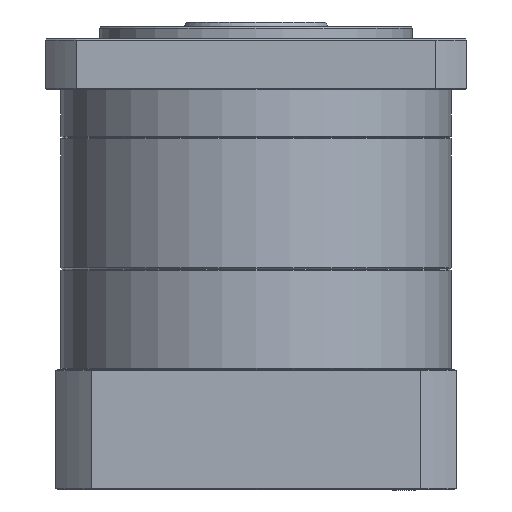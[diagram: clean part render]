
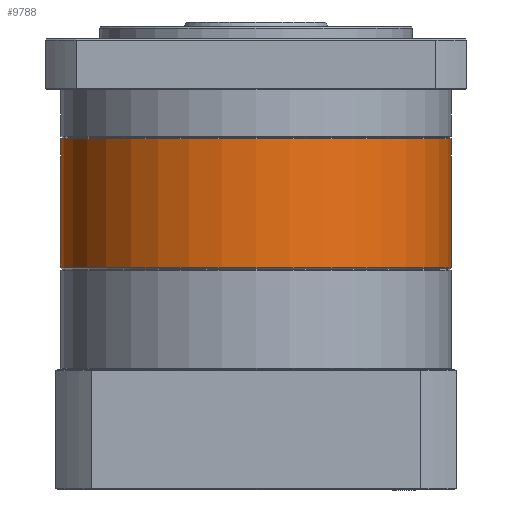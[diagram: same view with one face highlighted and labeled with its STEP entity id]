
A CAD part, front view. The second image highlights one B-rep face of the part: STEP entity #9788.
In plain terms, the highlighted cylindrical face has radius 81 mm (diameter 162 mm), a partial arc.
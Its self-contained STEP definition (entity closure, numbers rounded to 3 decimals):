
#1926 = DIRECTION ( 'NONE',  ( 0., 1., 0. ) ) ;
#2231 = DIRECTION ( 'NONE',  ( 1., 0., 0. ) ) ;
#4569 = CARTESIAN_POINT ( 'NONE',  ( 255.125, 67.755, 82.063 ) ) ;
#5974 = DIRECTION ( 'NONE',  ( 0., 0., 1. ) ) ;
#9788 = ADVANCED_FACE ( 'NONE', ( #84854 ), #21851, .T. ) ;
#11447 = CIRCLE ( 'NONE', #29010, 81. ) ;
#12903 = VERTEX_POINT ( 'NONE', #33733 ) ;
#18274 = CARTESIAN_POINT ( 'NONE',  ( 93.125, 67.755, 82.063 ) ) ;
#19287 = VERTEX_POINT ( 'NONE', #70411 ) ;
#20097 = DIRECTION ( 'NONE',  ( 0., 0., 1. ) ) ;
#21084 = EDGE_CURVE ( 'NONE', #24731, #58611, #88264, .T. ) ;
#21851 = CYLINDRICAL_SURFACE ( 'NONE', #45101, 81. ) ;
#21903 = AXIS2_PLACEMENT_3D ( 'NONE', #88655, #88047, #1926 ) ;
#24731 = VERTEX_POINT ( 'NONE', #4569 ) ;
#27886 = VECTOR ( 'NONE', #20097, 1000. ) ;
#28400 = ORIENTED_EDGE ( 'NONE', *, *, #21084, .T. ) ;
#28546 = DIRECTION ( 'NONE',  ( 1., 0., 0. ) ) ;
#29010 = AXIS2_PLACEMENT_3D ( 'NONE', #65622, #72488, #44572 ) ;
#29502 = CARTESIAN_POINT ( 'NONE',  ( 174.125, 67.755, 28.063 ) ) ;
#32221 = VECTOR ( 'NONE', #5974, 1000. ) ;
#33733 = CARTESIAN_POINT ( 'NONE',  ( 255.125, 67.755, 28.563 ) ) ;
#34724 = LINE ( 'NONE', #70970, #27886 ) ;
#35498 = ORIENTED_EDGE ( 'NONE', *, *, #63069, .F. ) ;
#38954 = AXIS2_PLACEMENT_3D ( 'NONE', #74503, #45339, #2231 ) ;
#41392 = EDGE_LOOP ( 'NONE', ( #77306, #35498, #87603, #68291, #28400 ) ) ;
#42847 = CARTESIAN_POINT ( 'NONE',  ( 93.125, 67.755, 28.563 ) ) ;
#42987 = EDGE_CURVE ( 'NONE', #47672, #58611, #34724, .T. ) ;
#44572 = DIRECTION ( 'NONE',  ( 0., 1., 0. ) ) ;
#45101 = AXIS2_PLACEMENT_3D ( 'NONE', #29502, #57780, #28546 ) ;
#45339 = DIRECTION ( 'NONE',  ( 0., 0., -1. ) ) ;
#46290 = EDGE_CURVE ( 'NONE', #12903, #19287, #11447, .T. ) ;
#47672 = VERTEX_POINT ( 'NONE', #42847 ) ;
#49293 = EDGE_CURVE ( 'NONE', #12903, #24731, #59116, .T. ) ;
#57780 = DIRECTION ( 'NONE',  ( 0., 0., 1. ) ) ;
#58611 = VERTEX_POINT ( 'NONE', #18274 ) ;
#59116 = LINE ( 'NONE', #75171, #32221 ) ;
#63069 = EDGE_CURVE ( 'NONE', #19287, #47672, #64273, .T. ) ;
#64273 = CIRCLE ( 'NONE', #21903, 81. ) ;
#65622 = CARTESIAN_POINT ( 'NONE',  ( 174.125, 67.755, 28.563 ) ) ;
#68291 = ORIENTED_EDGE ( 'NONE', *, *, #49293, .T. ) ;
#70411 = CARTESIAN_POINT ( 'NONE',  ( 174.125, -13.245, 28.563 ) ) ;
#70970 = CARTESIAN_POINT ( 'NONE',  ( 93.125, 67.755, 28.063 ) ) ;
#72488 = DIRECTION ( 'NONE',  ( 0., 0., -1. ) ) ;
#74503 = CARTESIAN_POINT ( 'NONE',  ( 174.125, 67.755, 82.063 ) ) ;
#75171 = CARTESIAN_POINT ( 'NONE',  ( 255.125, 67.755, 28.063 ) ) ;
#77306 = ORIENTED_EDGE ( 'NONE', *, *, #42987, .F. ) ;
#84854 = FACE_OUTER_BOUND ( 'NONE', #41392, .T. ) ;
#87603 = ORIENTED_EDGE ( 'NONE', *, *, #46290, .F. ) ;
#88047 = DIRECTION ( 'NONE',  ( 0., 0., -1. ) ) ;
#88264 = CIRCLE ( 'NONE', #38954, 81. ) ;
#88655 = CARTESIAN_POINT ( 'NONE',  ( 174.125, 67.755, 28.563 ) ) ;
